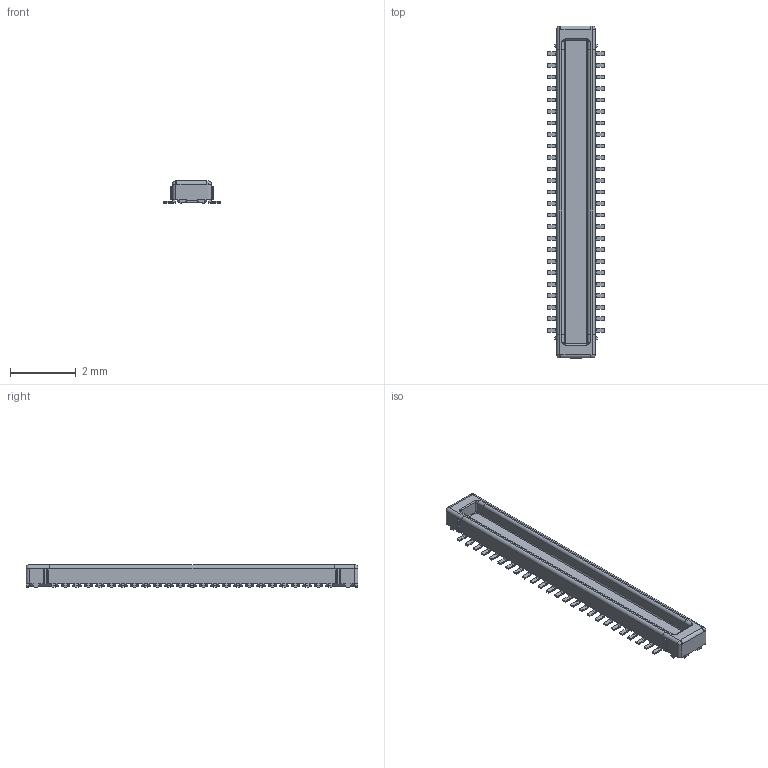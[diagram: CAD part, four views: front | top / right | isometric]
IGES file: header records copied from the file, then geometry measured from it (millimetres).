
Start section: SolidWorks IGES file using analytic representation for surfaces
Global section: file name: Q:\Kamikawa_Hisako\170209\xx_5863_0xx_xxx_xxx+\14_5863_050_024_829_+_.IGS; native system: SolidWorks 2014; preprocessor: SolidWorks 2014; author: user; date: 170213.144942; units: millimetre
Bounding box: 1.72 x 10.1 x 0.68 mm (x, y, z)
Surface area: 53.1 mm2 (no closed solid volume)
Topology: 0 solids, 0 shells, 918 faces, 5334 edges, 5316 vertices
Faces by surface type: bspline 576, revolution 342
